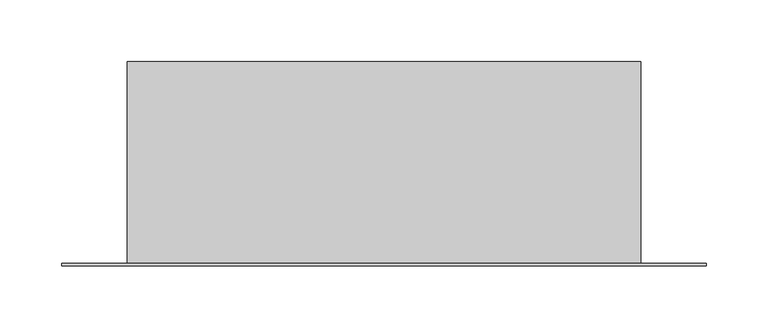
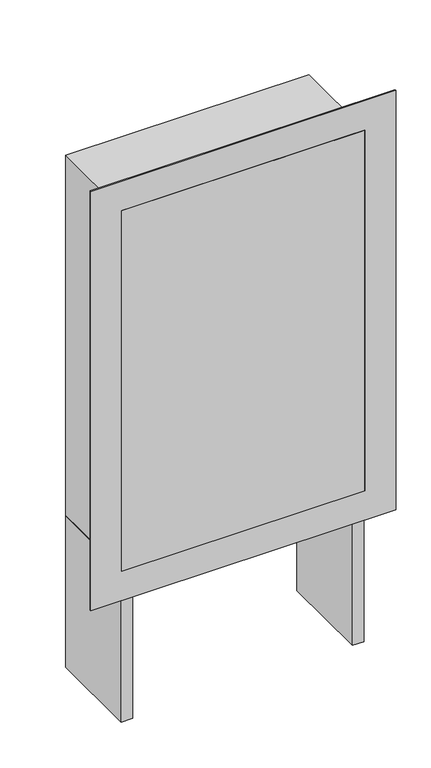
"""IFC4 building model written with IfcOpenShell, lengths in millimetres: valve geometry, PL CZ,HU Cabinet under plaster : FT-VK1 2-3 manifold loops."""

from ifc_helpers import new_model, si_unit, frame, origin, origin_with_axes, place, context, project, spatial, polyline, outline, extrude, source, transform, mapped, element, save


def valve_db89bd0c(model_context):
    return source(origin(), model_context, "Body", "SweptSolid", [
        extrude(outline(polyline([(-187.1040906, 2.0), (-207.1040906, 2.0), (-207.1040906, 165.0), (-187.1040906, 165.0), (-187.1040906, 2.0)])), origin_with_axes(), (0.0, 0.0, 1.0), 272.8959094),
        extrude(outline(polyline([(207.1040906, 2.0), (187.1040906, 2.0), (187.1040906, 165.0), (207.1040906, 165.0), (207.1040906, 2.0)])), origin_with_axes(), (0.0, 0.0, 1.0), 272.8959094),
        extrude(outline(polyline([(207.1040906, 0.0), (-207.1040906, 0.0), (-207.1040906, 165.0), (207.1040906, 165.0), (207.1040906, 0.0)])), frame((0.0, 0.0, 272.8959094), z_axis=(0.0, 0.0, 1.0), x_axis=(1.0, 0.0, 0.0)), (0.0, 0.0, 1.0), 649.2081812),
        extrude(outline(polyline([(975.0, 260.0), (975.0, -260.0), (220.0, -260.0), (220.0, 260.0), (975.0, 260.0)]), holes=[polyline([(272.8959094, -207.1040906), (922.1040906, -207.1040906), (922.1040906, 207.1040906), (272.8959094, 207.1040906), (272.8959094, -207.1040906)])]), frame((0.0, 0.0, 0.0), z_axis=(0.0, 1.0, 0.0), x_axis=(0.0, 0.0, 1.0)), (0.0, 0.0, 1.0), 2.0),
    ])


if __name__ == "__main__":
    model = new_model("IFC4")
    model_context = context("Model", 3, world=origin())
    ifc_project = project(units=[si_unit("LENGTHUNIT", "METRE", prefix="MILLI")], contexts=[model_context])
    site = spatial("IfcSite", under=ifc_project)
    building = spatial("IfcBuilding", under=site)
    placement = place(None, origin())
    valve_shape = valve_db89bd0c(model_context)
    element("IfcValve", 1, ObjectType="PL CZ,HU Cabinet under plaster : FT-VK1 2-3 manifold loops", at=placement, inside=building, context=model_context, shape_type="MappedRepresentation", body=[
        mapped(valve_shape, transform((0.0, 0.0, 0.0), x_axis=(1.0, 0.0, 0.0), y_axis=(0.0, 1.0, 0.0), z_axis=(0.0, 0.0, 1.0))),
    ])
    save(model, "model.ifc")
